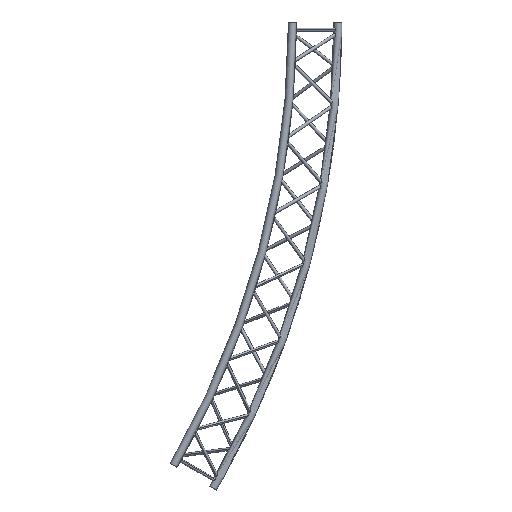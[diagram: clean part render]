
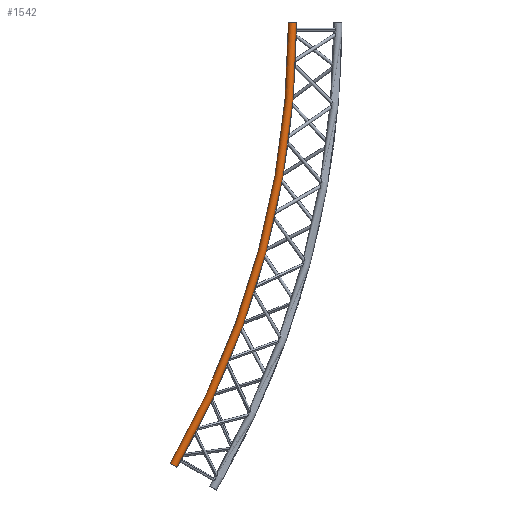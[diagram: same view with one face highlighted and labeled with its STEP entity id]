
A CAD part, front view. The second image highlights one B-rep face of the part: STEP entity #1542.
In plain terms, the highlighted toroidal (fillet/blend) face has major radius 5683.15 mm and minor radius 25 mm.
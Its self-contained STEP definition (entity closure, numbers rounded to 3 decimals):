
#1123 = CARTESIAN_POINT ( 'NONE',  ( 0., -168.5, 0. ) ) ;
#1125 = CARTESIAN_POINT ( 'NONE',  ( 5708.149, -168.5, 0. ) ) ;
#1127 = CIRCLE ( 'NONE', #1132, 5708.149 ) ;
#1132 = AXIS2_PLACEMENT_3D ( 'NONE', #1123, #1137, #1136 ) ;
#1136 = DIRECTION ( 'NONE',  ( 0., 0., -1. ) ) ;
#1137 = DIRECTION ( 'NONE',  ( 0., -1., 0. ) ) ;
#1537 = EDGE_LOOP ( 'NONE', ( #1555, #1561, #1539, #1562 ) ) ;
#1539 = ORIENTED_EDGE ( 'NONE', *, *, #1543, .F. ) ;
#1540 = EDGE_CURVE ( 'NONE', #1981, #1548, #4326, .T. ) ;
#1542 = ADVANCED_FACE ( 'NONE', ( #4359 ), #4358, .T. ) ;
#1543 = EDGE_CURVE ( 'NONE', #1548, #1554, #4425, .T. ) ;
#1545 = EDGE_CURVE ( 'NONE', #1981, #1560, #4412, .T. ) ;
#1548 = VERTEX_POINT ( 'NONE', #4403 ) ;
#1554 = VERTEX_POINT ( 'NONE', #1125 ) ;
#1555 = ORIENTED_EDGE ( 'NONE', *, *, #1545, .T. ) ;
#1556 = EDGE_CURVE ( 'NONE', #1560, #1554, #1127, .T. ) ;
#1560 = VERTEX_POINT ( 'NONE', #4471 ) ;
#1561 = ORIENTED_EDGE ( 'NONE', *, *, #1556, .T. ) ;
#1562 = ORIENTED_EDGE ( 'NONE', *, *, #1540, .F. ) ;
#1981 = VERTEX_POINT ( 'NONE', #5769 ) ;
#4326 = CIRCLE ( 'NONE', #4364, 5658.149 ) ;
#4358 = TOROIDAL_SURFACE ( 'NONE', #4427, 5683.149, 25. ) ;
#4359 = FACE_OUTER_BOUND ( 'NONE', #1537, .T. ) ;
#4361 = DIRECTION ( 'NONE',  ( 0., 0., -1. ) ) ;
#4362 = DIRECTION ( 'NONE',  ( 0., -1., 0. ) ) ;
#4363 = CARTESIAN_POINT ( 'NONE',  ( 0., -168.5, 0. ) ) ;
#4364 = AXIS2_PLACEMENT_3D ( 'NONE', #4363, #4362, #4361 ) ;
#4403 = CARTESIAN_POINT ( 'NONE',  ( 5658.149, -168.5, 0. ) ) ;
#4408 = DIRECTION ( 'NONE',  ( 0.866, 0., -0.5 ) ) ;
#4409 = DIRECTION ( 'NONE',  ( 0.5, 0., 0.866 ) ) ;
#4410 = CARTESIAN_POINT ( 'NONE',  ( 4921.752, -168.5, -2841.575 ) ) ;
#4411 = AXIS2_PLACEMENT_3D ( 'NONE', #4410, #4409, #4408 ) ;
#4412 = CIRCLE ( 'NONE', #4411, 25. ) ;
#4419 = DIRECTION ( 'NONE',  ( 1., 0., 0. ) ) ;
#4420 = DIRECTION ( 'NONE',  ( 0., 0., 1. ) ) ;
#4421 = CARTESIAN_POINT ( 'NONE',  ( 5683.149, -168.5, 0. ) ) ;
#4422 = AXIS2_PLACEMENT_3D ( 'NONE', #4421, #4420, #4419 ) ;
#4423 = DIRECTION ( 'NONE',  ( 0., 0., -1. ) ) ;
#4424 = DIRECTION ( 'NONE',  ( 0., -1., 0. ) ) ;
#4425 = CIRCLE ( 'NONE', #4422, 25. ) ;
#4426 = CARTESIAN_POINT ( 'NONE',  ( 0., -168.5, 0. ) ) ;
#4427 = AXIS2_PLACEMENT_3D ( 'NONE', #4426, #4424, #4423 ) ;
#4471 = CARTESIAN_POINT ( 'NONE',  ( 4943.402, -168.5, -2854.075 ) ) ;
#5769 = CARTESIAN_POINT ( 'NONE',  ( 4900.101, -168.5, -2829.075 ) ) ;
